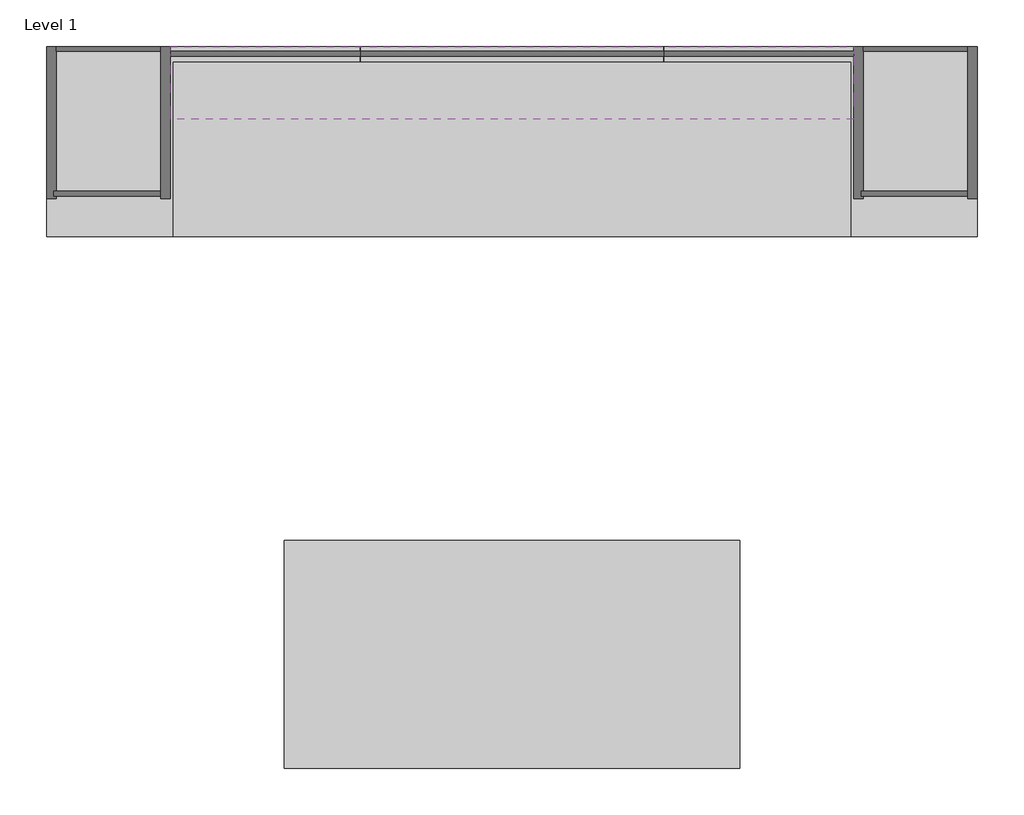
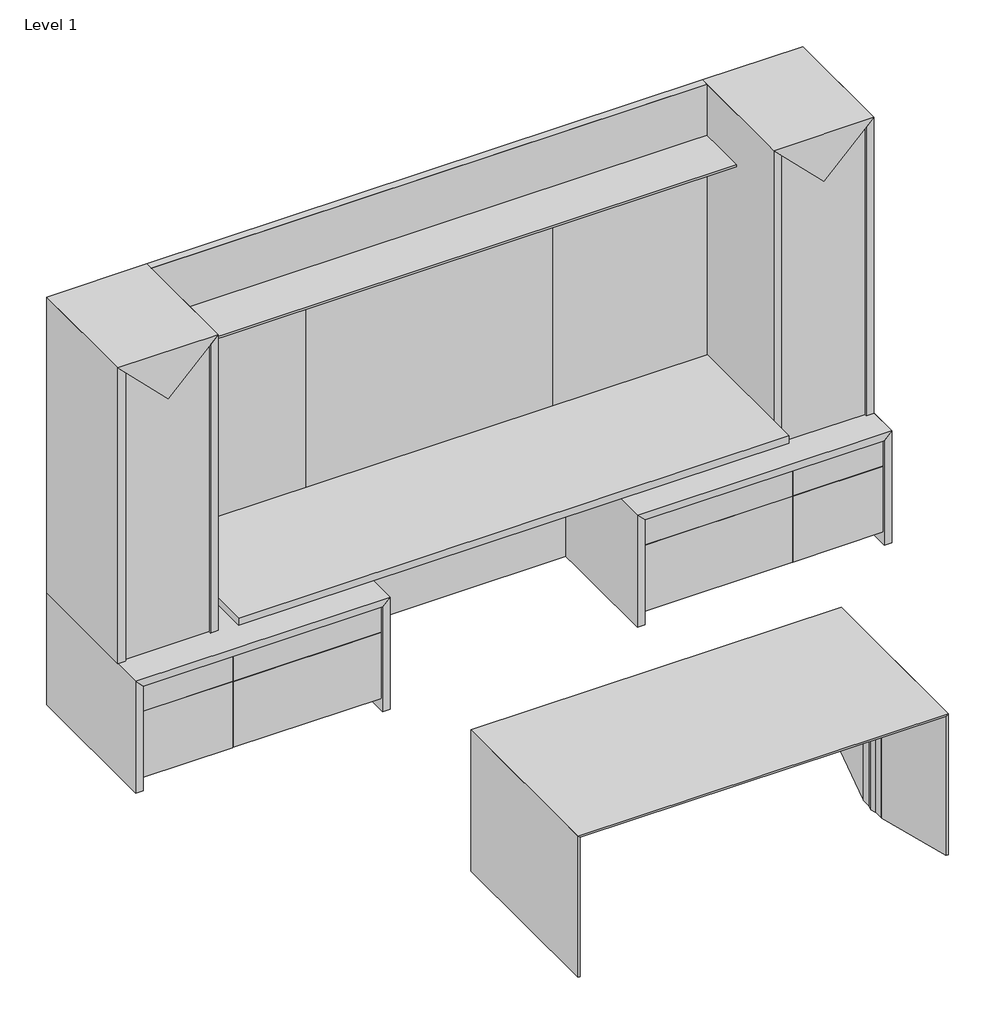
# One storey, incomplete: 14 proxies.
"""IFC4 building model written with IfcOpenShell, lengths in millimetres."""

from ifc_helpers import new_model, si_unit, origin, place, context, project, spatial, transform, mapped, element, save
from components import generic_models_26d7ec7b, generic_models_b5482eb1, generic_models_e3df8aa0, generic_models_572fd475, generic_models_aba46bb3, generic_models_59e38448, generic_models_f6d9182c, generic_models_dd8b9ff4, generic_models_6adc693e, generic_models_a6173da6, generic_models_797e400e, generic_models_b191f178

model = new_model("IFC4")

# Units and contexts
model_context = context("Model", 3, world=origin())
ifc_project = project(units=[si_unit("LENGTHUNIT", "METRE", prefix="MILLI")], contexts=[model_context])

# Site, building, storey
site = spatial("IfcSite", under=ifc_project)
building = spatial("IfcBuilding", under=site)
storey = spatial("IfcBuildingStorey", under=building, Name="Level 1", Elevation=0.0)

# Proxies
placement = place(None, origin())
generic_models_shape = generic_models_26d7ec7b(model_context)
element("IfcBuildingElementProxy", 1, Name="AERO^OFFICE 3_6x48 LIFT SHROUDS-RIGHT UNIT PARTS SOLID", ObjectType="AERO^OFFICE 3_6x48 LIFT SHROUDS-RIGHT UNIT PARTS SOLID", at=placement, inside=storey, context=model_context, shape_type="MappedRepresentation", body=[
    mapped(generic_models_shape, transform((2508.25, -184.15, 165.1), x_axis=(1.0, 0.0, 0.0), y_axis=(0.0, 0.0, 1.0), z_axis=(0.0, -1.0, 0.0))),
])
generic_models_2_shape = generic_models_b5482eb1(model_context)
element("IfcBuildingElementProxy", 2, Name="AERO^OFFICE 3_108 WALL HUNG-SHELF", ObjectType="AERO^OFFICE 3_108 WALL HUNG-SHELF", at=placement, inside=storey, context=model_context, shape_type="MappedRepresentation", body=[
    mapped(generic_models_2_shape, transform((457.2, -38.1, 1822.45), x_axis=(1.0, 0.0, 0.0), y_axis=(0.0, 0.0, 1.0), z_axis=(0.0, -1.0, 0.0))),
])
generic_models_3_shape = generic_models_e3df8aa0(model_context)
element("IfcBuildingElementProxy", 3, Name="AERO^OFFICE 3_36x72 FIXED PANEL DESK-PARTS SOLID", ObjectType="AERO^OFFICE 3_36x72 FIXED PANEL DESK-PARTS SOLID", at=placement, inside=storey, context=model_context, shape_type="MappedRepresentation", body=[
    mapped(generic_models_3_shape, transform((914.4, -2895.6, 704.85), x_axis=(1.0, 0.0, 0.0), y_axis=(0.0, 0.0, 1.0), z_axis=(0.0, -1.0, 0.0))),
])
generic_models_4_shape = generic_models_572fd475(model_context)
element("IfcBuildingElementProxy", 4, Name="AERO^OFFICE 3_WALL HUNG-48 TACK", ObjectType="AERO^OFFICE 3_WALL HUNG-48 TACK", at=placement, inside=storey, context=model_context, shape_type="MappedRepresentation", body=[
    mapped(generic_models_4_shape, transform((1219.2, -19.05, 584.2), x_axis=(1.0, 0.0, 0.0), y_axis=(0.0, 0.0, 1.0), z_axis=(0.0, -1.0, 0.0))),
])
generic_models_5_shape = generic_models_aba46bb3(model_context)
element("IfcBuildingElementProxy", 5, Name="AERO^OFFICE 3_6x48 WIRE WALL-PARTS SOLID", ObjectType="AERO^OFFICE 3_6x48 WIRE WALL-PARTS SOLID", at=placement, inside=storey, context=model_context, shape_type="MappedRepresentation", body=[
    mapped(generic_models_5_shape, transform((1219.2, -133.35, 565.15), x_axis=(1.0, 0.0, 0.0), y_axis=(0.0, 0.0, 1.0), z_axis=(0.0, -1.0, 0.0))),
])
generic_models_6_shape = generic_models_59e38448(model_context)
element("IfcBuildingElementProxy", 6, Name="AERO^OFFICE 3_6x48 LIFT SHROUDS-LEFT UNIT PARTS SOLID", ObjectType="AERO^OFFICE 3_6x48 LIFT SHROUDS-LEFT UNIT PARTS SOLID", at=placement, inside=storey, context=model_context, shape_type="MappedRepresentation", body=[
    mapped(generic_models_6_shape, transform((965.2, -184.15, 165.1), x_axis=(1.0, 0.0, 0.0), y_axis=(0.0, 0.0, 1.0), z_axis=(0.0, -1.0, 0.0))),
])
generic_models_7_shape = generic_models_f6d9182c(model_context)
element("IfcBuildingElementProxy", 7, Name="AERO^OFFICE 3_UPPER WARDROBE-PARTS SOLID", ObjectType="AERO^OFFICE 3_UPPER WARDROBE-PARTS SOLID", at=placement, inside=storey, context=model_context, shape_type="MappedRepresentation", body=[
    mapped(generic_models_7_shape, transform((-38.1, -609.6, 584.2), x_axis=(1.0, 0.0, 0.0), y_axis=(0.0, 0.0, 1.0), z_axis=(0.0, -1.0, 0.0))),
])
element("IfcBuildingElementProxy", 8, Name="AERO^OFFICE 3_UPPER WARDROBE-PARTS SOLID", ObjectType="AERO^OFFICE 3_UPPER WARDROBE-PARTS SOLID", at=placement, inside=storey, context=model_context, shape_type="MappedRepresentation", body=[
    mapped(generic_models_7_shape, transform((3200.4, -609.6, 584.2), x_axis=(1.0, 0.0, 0.0), y_axis=(0.0, 0.0, 1.0), z_axis=(0.0, -1.0, 0.0))),
])
generic_models_8_shape = generic_models_dd8b9ff4(model_context)
element("IfcBuildingElementProxy", 9, Name="AERO^OFFICE 3_WALL HUNG-TACK", ObjectType="AERO^OFFICE 3_WALL HUNG-TACK", at=placement, inside=storey, context=model_context, shape_type="MappedRepresentation", body=[
    mapped(generic_models_8_shape, transform((2438.4, -19.05, 584.2), x_axis=(1.0, 0.0, 0.0), y_axis=(0.0, 0.0, 1.0), z_axis=(0.0, -1.0, 0.0))),
])
element("IfcBuildingElementProxy", 10, Name="AERO^OFFICE 3_WALL HUNG-TACK", ObjectType="AERO^OFFICE 3_WALL HUNG-TACK", at=placement, inside=storey, context=model_context, shape_type="MappedRepresentation", body=[
    mapped(generic_models_8_shape, transform((457.2, -19.05, 584.2), x_axis=(1.0, 0.0, 0.0), y_axis=(0.0, 0.0, 1.0), z_axis=(0.0, -1.0, 0.0))),
])
generic_models_9_shape = generic_models_6adc693e(model_context)
element("IfcBuildingElementProxy", 11, Name="AERO^OFFICE 3_107x24 LIFT WALL-WORKSURFACE", ObjectType="AERO^OFFICE 3_107x24 LIFT WALL-WORKSURFACE", at=placement, inside=storey, context=model_context, shape_type="MappedRepresentation", body=[
    mapped(generic_models_9_shape, transform((469.9, -762.0, 698.5), x_axis=(1.0, 0.0, 0.0), y_axis=(0.0, 0.0, 1.0), z_axis=(0.0, -1.0, 0.0))),
])
generic_models_10_shape = generic_models_a6173da6(model_context)
element("IfcBuildingElementProxy", 12, Name="AERO^OFFICE 3_30x48x23 RIGHT PED-PARTS SOLID", ObjectType="AERO^OFFICE 3_30x48x23 RIGHT PED-PARTS SOLID", at=placement, inside=storey, context=model_context, shape_type="MappedRepresentation", body=[
    mapped(generic_models_10_shape, transform((-1219.2, 0.0, 0.0), x_axis=(1.0, 0.0, 0.0), y_axis=(0.0, 0.0, 1.0), z_axis=(0.0, -1.0, 0.0))),
])
generic_models_11_shape = generic_models_797e400e(model_context)
element("IfcBuildingElementProxy", 13, Name="AERO^OFFICE 3_30x48x23 LEFT PED-PARTS SOLID", ObjectType="AERO^OFFICE 3_30x48x23 LEFT PED-PARTS SOLID", at=placement, inside=storey, context=model_context, shape_type="MappedRepresentation", body=[
    mapped(generic_models_11_shape, transform((0.0, 0.0, 0.0), x_axis=(1.0, 0.0, 0.0), y_axis=(0.0, 0.0, 1.0), z_axis=(0.0, -1.0, 0.0))),
])
generic_models_12_shape = generic_models_b191f178(model_context)
element("IfcBuildingElementProxy", 14, Name="AERO^OFFICE 3_6x48 WIRE WALL-WIRE TROUGH", ObjectType="AERO^OFFICE 3_6x48 WIRE WALL-WIRE TROUGH", at=placement, inside=storey, context=model_context, shape_type="MappedRepresentation", body=[
    mapped(generic_models_12_shape, transform((2451.1, -266.27762, 649.2875), x_axis=(0.0, -1.0, 0.0), y_axis=(0.0, 0.0, 1.0), z_axis=(-1.0, 0.0, 0.0))),
])

save(model, "model.ifc")
